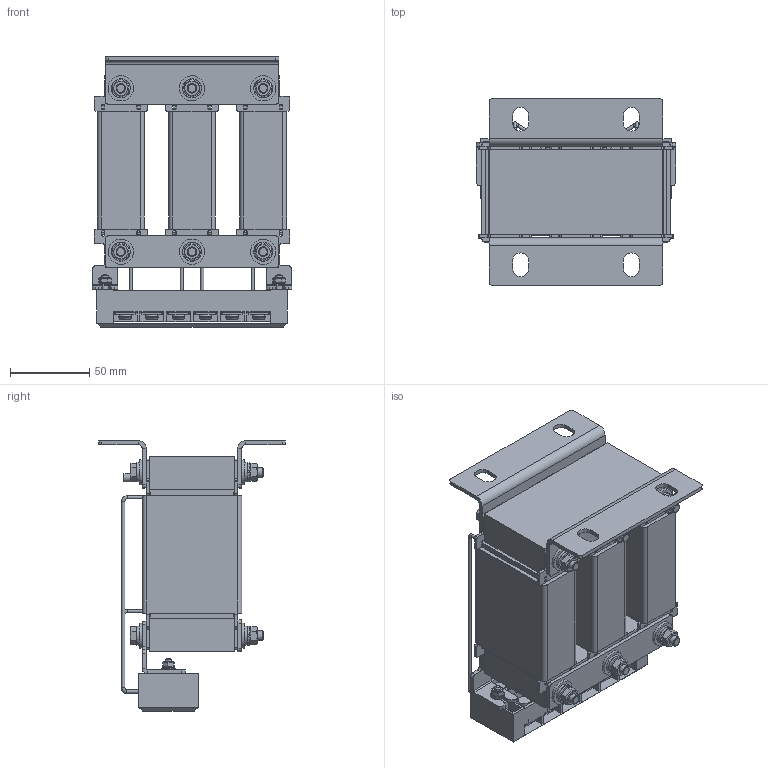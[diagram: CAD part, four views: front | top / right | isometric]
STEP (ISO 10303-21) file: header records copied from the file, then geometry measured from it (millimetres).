
FILE_DESCRIPTION (( 'STEP AP203' ), '1' );
FILE_NAME ('Ñåòåâîé äðîññåëü _ ISF-15_35-4.STEP', '2026-07-22T08:22:01', ( '' ), ( '' ), 'SwSTEP 2.0', 'SolidWorks 2021', '' );
FILE_SCHEMA (( 'CONFIG_CONTROL_DESIGN' ));
Length unit declared in the file: millimetre
Products named in the file (30): Ãàéêà DIN 934_Œ6; Ãàéêà DIN 934_Œ4; Ñòåíêà êàðêàñà êàòóøêè ïðîäîëüíàÿ _ 11-22_04; Ëàïà ñî øïèëüêîé çàçåìëåíèÿ _ 5.5-22_‘â ­¤ àâ 01; Êîðïóñ êëåììíîãî òåðìèíàëà TB-4506; Øàéáà ïëîñêàÿ DIN 125 (A)_Œ4; Ñòåíêà êàðêàñà êàòóøêè ïîïåðå÷íàÿ _ 11-22_04; ������� � �������� _ 11-22_�ࠢ��; Øàéáà ïðóæèííàÿ DIN 127 (A)_Œ6; Øàéáà ïëîñêàÿ DIN 125 (A)_Œ6; Êàðêàñ êàòóøêè _ 11-22_04; Êàòóøêà ñ êàðêàñîì _ 11-22_‹¥¢ ï; Âèíò DIN 965 PH_Œ4å16; Øàéáà ïðóæèííàÿ DIN 127 (A)_Œ4; Áîëò DIN 933_Œ6å80; Øàéáà ïëîñêàÿ DIN 9021_Œ6 ¯®«¨ ¬¨¤; Øïèëüêà ïðèâàðíàÿ_Œ5å12; 昢膼瘔 _ ISF-15; ������� _ 11-22_�ࠢ��; Êàòóøêà ñ êàðêàñîì _ 11-22_–¥­âà «ì­ ï; 孰屐祉 蝈痨桧嚯 TB-4506; 肃镟 _ 5.5-22_戔牠噔 01; ﾑ褞蒟韭 _ ISF-15_01; Ñåòåâîé äðîññåëü _ ISF-15_35-4; Êàòóøêà _ 11-22_‹¥¢ ï; Ïëàñòèíà ïðèæèìíàÿ _ 5.5-22_01; Ëàïà _ 5.5-22_‘â ­¤ àâ ¯®¤ è¯¨«ìªã 01; Óãîëîê êëåììíèêà _ 11-22_01; Êàòóøêà _ 11-22_–¥­âà «ì­ ï; Êðûøêà êëåììíîãî òåðìèíàëà TB-4506
Assembly tree (74 placements, depth 5):
  Ñåòåâîé äðîññåëü _ ISF-15_35-4
    ﾑ褞蒟韭 _ ISF-15_01
      ������� � �������� _ 11-22_�ࠢ��
        Êàðêàñ êàòóøêè _ 11-22_04
          Ñòåíêà êàðêàñà êàòóøêè ïðîäîëüíàÿ _ 11-22_04  x2
          Ñòåíêà êàðêàñà êàòóøêè ïîïåðå÷íàÿ _ 11-22_04  x2
        ������� _ 11-22_�ࠢ��
      Êàòóøêà ñ êàðêàñîì _ 11-22_–¥­âà «ì­ ï
        Êàðêàñ êàòóøêè _ 11-22_04
          Ñòåíêà êàðêàñà êàòóøêè ïðîäîëüíàÿ _ 11-22_04  x2
          Ñòåíêà êàðêàñà êàòóøêè ïîïåðå÷íàÿ _ 11-22_04  x2
        Êàòóøêà _ 11-22_–¥­âà «ì­ ï
      Êàòóøêà ñ êàðêàñîì _ 11-22_‹¥¢ ï
        Êàðêàñ êàòóøêè _ 11-22_04
          Ñòåíêà êàðêàñà êàòóøêè ïðîäîëüíàÿ _ 11-22_04  x2
          Ñòåíêà êàðêàñà êàòóøêè ïîïåðå÷íàÿ _ 11-22_04  x2
        Êàòóøêà _ 11-22_‹¥¢ ï
      昢膼瘔 _ ISF-15
    Óãîëîê êëåììíèêà _ 11-22_01
    Ïëàñòèíà ïðèæèìíàÿ _ 5.5-22_01
    肃镟 _ 5.5-22_戔牠噔 01
    Ëàïà ñî øïèëüêîé çàçåìëåíèÿ _ 5.5-22_‘â ­¤ àâ 01
      Ëàïà _ 5.5-22_‘â ­¤ àâ ¯®¤ è¯¨«ìªã 01
      Øïèëüêà ïðèâàðíàÿ_Œ5å12
    孰屐祉 蝈痨桧嚯 TB-4506
      Êîðïóñ êëåììíîãî òåðìèíàëà TB-4506
      Êðûøêà êëåììíîãî òåðìèíàëà TB-4506
    Øàéáà ïëîñêàÿ DIN 9021_Œ6 ¯®«¨ ¬¨¤  x12
    Øàéáà ïëîñêàÿ DIN 125 (A)_Œ6  x12
    Øàéáà ïðóæèííàÿ DIN 127 (A)_Œ6  x6
    Ãàéêà DIN 934_Œ6  x6
    Áîëò DIN 933_Œ6å80  x6
    Âèíò DIN 965 PH_Œ4å16  x2
    Øàéáà ïëîñêàÿ DIN 125 (A)_Œ4  x2
    Øàéáà ïðóæèííàÿ DIN 127 (A)_Œ4  x2
    Ãàéêà DIN 934_Œ4  x2
Bounding box: 126 x 118 x 171.1 mm (x, y, z)
Volume: 796218.6 mm3; surface area: 375150.1 mm2
Topology: 103 solids, 103 shells, 2284 faces, 5820 edges, 3793 vertices
Faces by surface type: plane 1387, cylinder 654, cone 139, bspline 80, torus 24
Full cylindrical faces by diameter (mm): 0.75 x1, 2 x24, 3.3 x2, 3.5 x1, 4 x2, 4.3 x2, 4.4 x2, 5 x55, 6 x6, 6.4 x24, 6.5 x1, 7 x6, 7.5 x4, 7.8 x12, 8 x12, 8.2 x12, 9 x2, 12 x12, 16 x12
Entity records: 43752 total; most frequent: CARTESIAN_POINT 8577, DIRECTION 6236, ORIENTED_EDGE 6134, EDGE_CURVE 3067, VECTOR 2180, LINE 2180, VERTEX_POINT 2107, AXIS2_PLACEMENT_3D 2028
